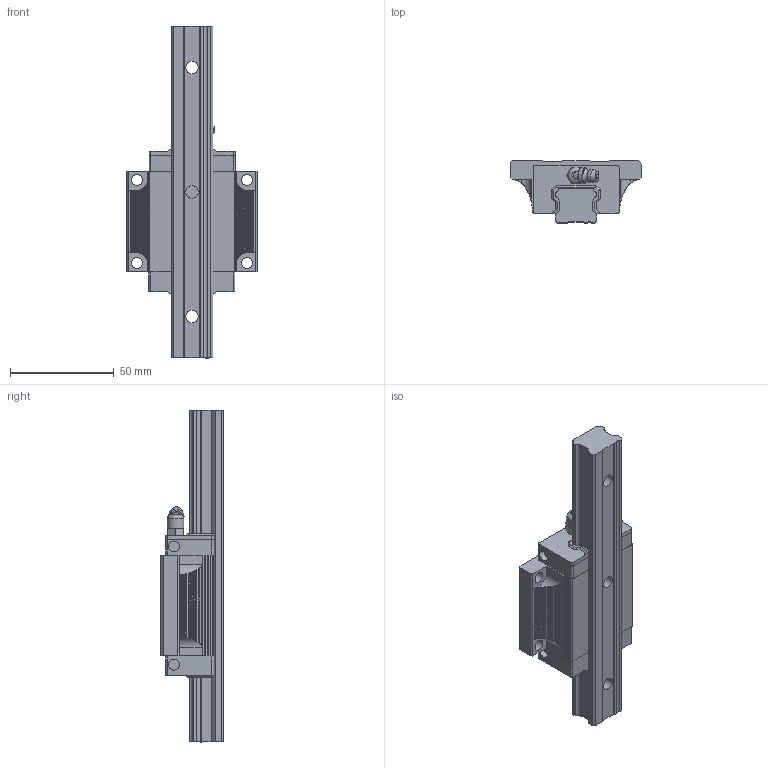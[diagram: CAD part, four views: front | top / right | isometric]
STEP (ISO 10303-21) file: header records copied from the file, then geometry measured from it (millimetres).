
FILE_DESCRIPTION((''),'2;1');
FILE_NAME('D:\製品 (図面)\カタログ用3D\変換ファイル\OZAK_3D-CAD(STEP形式)\Part2.-Linear Guides_ﾘﾆｱｶﾞｲﾄﾞ\07_Eco Guides_ｴｺｶﾞｲﾄﾞ\EGH-F\EGH20F.stp','2010-12-22T11:14:07',('Tsuchiya'),(''),'Autodesk Inventor 10','Autodesk Inventor 10','');
FILE_SCHEMA(('AUTOMOTIVE_DESIGN { 1 0 10303 214 1 1 1 1 }'));
Length unit declared in the file: millimetre
Products named in the file (3): EGH20F; EGH20F1; EGH20F2
Assembly tree (2 placements, depth 2):
  EGH20F
    EGH20F1
    EGH20F2
Bounding box: 63 x 30 x 160 mm (x, y, z)
Volume: 110570.5 mm3; surface area: 29336.9 mm2
Topology: 2 solids, 3 shells, 370 faces, 1001 edges, 648 vertices
Faces by surface type: plane 252, cylinder 90, cone 16, bspline 10, torus 1, sphere 1
Full cylindrical faces by diameter (mm): 5.3 x4, 5.4 x4, 6 x6, 7.75 x1, 8 x1, 9.5 x3
Entity records: 11716 total; most frequent: CARTESIAN_POINT 2456, ORIENTED_EDGE 1932, DIRECTION 1851, EDGE_CURVE 966, VECTOR 649, LINE 649, VERTEX_POINT 641, AXIS2_PLACEMENT_3D 601
